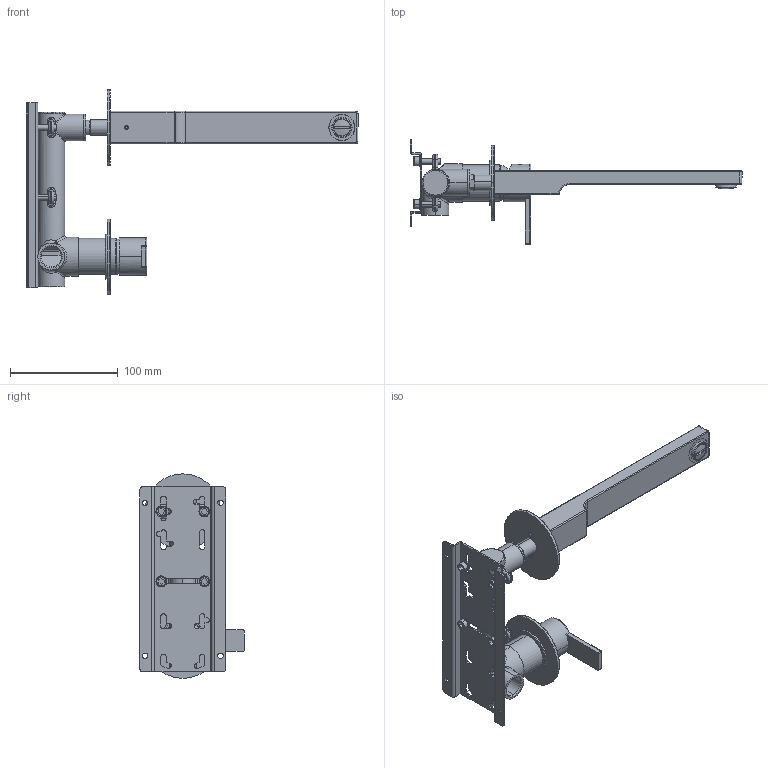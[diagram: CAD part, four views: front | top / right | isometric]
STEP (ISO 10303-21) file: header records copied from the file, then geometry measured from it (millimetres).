
FILE_DESCRIPTION (( 'STEP AP203' ), '1' );
FILE_NAME ('MCN85.STEP', '2023-12-05T09:13:13', ( '' ), ( '' ), 'SwSTEP 2.0', 'SolidWorks 2021', '' );
FILE_SCHEMA (( 'CONFIG_CONTROL_DESIGN' ));
Length unit declared in the file: millimetre
Products named in the file (24): C11.10.0019; C23.0360.01; C24.0120.00.1; IGN84; C24.2580.00.0; C21.1428.00.0; C24.2656.00; C18.23.0004; C11.12.0020; C25.2348.00.1; C12.00.0008; C24.1936.00.1; C24.1560.00.0; C10.00.0020; C24.2661.00; C13.00.0014; MCN85; C11.14.0003; C47.00.0023.01; C11.14.0009; C11.10.0061; C12.00.0051; C24.1955.00.1; C12.00.0032
Assembly tree (32 placements, depth 3):
  MCN85
    IGN84
      C21.1428.00.0
      C18.23.0004
      C24.1955.00.1
      C12.00.0008
      C12.00.0051  x3
      C10.00.0020
      C11.10.0019  x4
      C11.12.0020  x4
      C25.2348.00.1
    C11.14.0003
    C12.00.0032
    C24.1936.00.1
    C11.10.0061  x2
    C13.00.0014
    C24.0120.00.1
    C24.1560.00.0
    C24.2656.00
    C24.2661.00
    C24.2580.00.0
    C47.00.0023.01
    C11.14.0009
    C23.0360.01
Bounding box: 308.5 x 97 x 189.88 mm (x, y, z)
Volume: 245891.3 mm3; surface area: 158662.8 mm2
Topology: 33 solids, 33 shells, 1116 faces, 2639 edges, 1634 vertices
Faces by surface type: cylinder 429, plane 404, cone 133, torus 96, bspline 50, sphere 4
Entity records: 36433 total; most frequent: CARTESIAN_POINT 10398, DIRECTION 5056, ORIENTED_EDGE 4716, EDGE_CURVE 2358, AXIS2_PLACEMENT_3D 1984, VERTEX_POINT 1474, EDGE_LOOP 1132, LINE 1088
